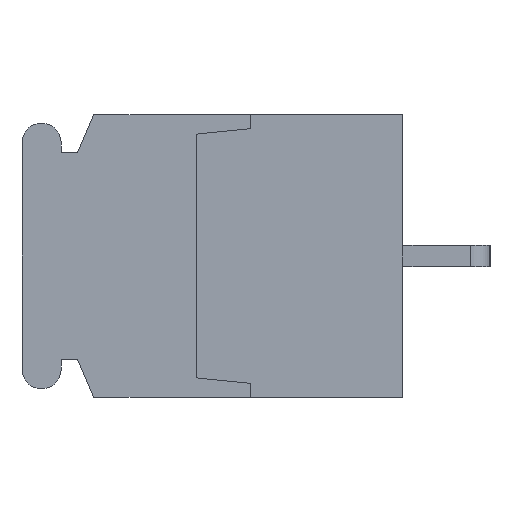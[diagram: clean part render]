
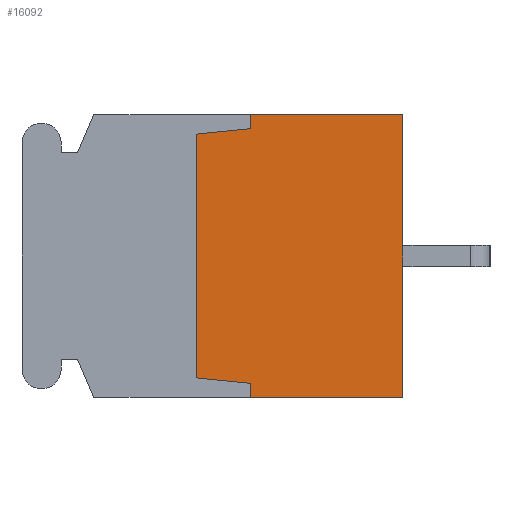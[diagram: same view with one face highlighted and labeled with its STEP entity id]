
A CAD part, left-side view. The second image highlights one B-rep face of the part: STEP entity #16092.
In plain terms, the highlighted planar face has unit normal (-1, 0, 0).
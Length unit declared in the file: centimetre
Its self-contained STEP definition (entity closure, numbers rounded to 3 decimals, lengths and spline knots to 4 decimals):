
#1093=VERTEX_POINT('',#20784);
#1096=VERTEX_POINT('',#20789);
#1126=VERTEX_POINT('',#20852);
#1176=VERTEX_POINT('',#20973);
#2249=VERTEX_POINT('',#25054);
#2250=VERTEX_POINT('',#25056);
#2251=VERTEX_POINT('',#25058);
#2252=VERTEX_POINT('',#25060);
#2696=VECTOR('',#17244,1.);
#2727=VECTOR('',#17276,1.);
#2787=VECTOR('',#17352,1.);
#3965=VECTOR('',#19881,1.);
#3966=VECTOR('',#19882,1.);
#3967=VECTOR('',#19883,1.);
#3968=VECTOR('',#19884,1.);
#3969=VECTOR('',#19885,1.);
#4476=LINE('',#20790,#2696);
#4507=LINE('',#20851,#2727);
#4567=LINE('',#20974,#2787);
#5745=LINE('',#25053,#3965);
#5746=LINE('',#25055,#3966);
#5747=LINE('',#25057,#3967);
#5748=LINE('',#25059,#3968);
#5749=LINE('',#25061,#3969);
#6308=EDGE_CURVE('',#1096,#1093,#4476,.T.);
#6339=EDGE_CURVE('',#1093,#1126,#4507,.T.);
#6401=EDGE_CURVE('',#1176,#1096,#4567,.T.);
#8051=EDGE_CURVE('',#2249,#1176,#5745,.T.);
#8052=EDGE_CURVE('',#2250,#2249,#5746,.T.);
#8053=EDGE_CURVE('',#2251,#2250,#5747,.T.);
#8054=EDGE_CURVE('',#2252,#2251,#5748,.T.);
#8055=EDGE_CURVE('',#1126,#2252,#5749,.T.);
#12363=ORIENTED_EDGE('',*,*,#6308,.F.);
#12364=ORIENTED_EDGE('',*,*,#6401,.F.);
#12365=ORIENTED_EDGE('',*,*,#8051,.F.);
#12366=ORIENTED_EDGE('',*,*,#8052,.F.);
#12367=ORIENTED_EDGE('',*,*,#8053,.F.);
#12368=ORIENTED_EDGE('',*,*,#8054,.F.);
#12369=ORIENTED_EDGE('',*,*,#8055,.F.);
#12370=ORIENTED_EDGE('',*,*,#6339,.F.);
#14168=EDGE_LOOP('',(#12363,#12364,#12365,#12366,#12367,#12368,#12369,#12370));
#15176=FACE_BOUND('',#14168,.T.);
#16092=ADVANCED_FACE('',(#15176),#16822,.F.);
#16822=PLANE('',#27566);
#17244=DIRECTION('',(0.,0.,-1.));
#17276=DIRECTION('',(0.,1.,0.));
#17352=DIRECTION('',(0.,-1.,0.));
#19880=DIRECTION('',(1.,0.,0.));
#19881=DIRECTION('',(0.,0.,1.));
#19882=DIRECTION('',(0.,-0.995,0.1));
#19883=DIRECTION('',(0.,0.,1.));
#19884=DIRECTION('',(0.,0.995,0.1));
#19885=DIRECTION('',(0.,0.,1.));
#20784=CARTESIAN_POINT('',(-1.07,0.,-0.65));
#20789=CARTESIAN_POINT('',(-1.07,0.,0.65));
#20790=CARTESIAN_POINT('',(-1.07,0.,0.65));
#20851=CARTESIAN_POINT('',(-1.07,0.,-0.65));
#20852=CARTESIAN_POINT('',(-1.07,0.7,-0.65));
#20973=CARTESIAN_POINT('',(-1.07,0.7,0.65));
#20974=CARTESIAN_POINT('',(-1.07,0.7,0.65));
#25052=CARTESIAN_POINT('',(-1.07,0.4626,0.));
#25053=CARTESIAN_POINT('',(-1.07,0.7,0.585));
#25054=CARTESIAN_POINT('',(-1.07,0.7,0.585));
#25055=CARTESIAN_POINT('',(-1.07,0.95,0.56));
#25056=CARTESIAN_POINT('',(-1.07,0.95,0.56));
#25057=CARTESIAN_POINT('',(-1.07,0.95,-0.56));
#25058=CARTESIAN_POINT('',(-1.07,0.95,-0.56));
#25059=CARTESIAN_POINT('',(-1.07,0.7,-0.585));
#25060=CARTESIAN_POINT('',(-1.07,0.7,-0.585));
#25061=CARTESIAN_POINT('',(-1.07,0.7,-0.65));
#27566=AXIS2_PLACEMENT_3D('',#25052,#19880,$);
